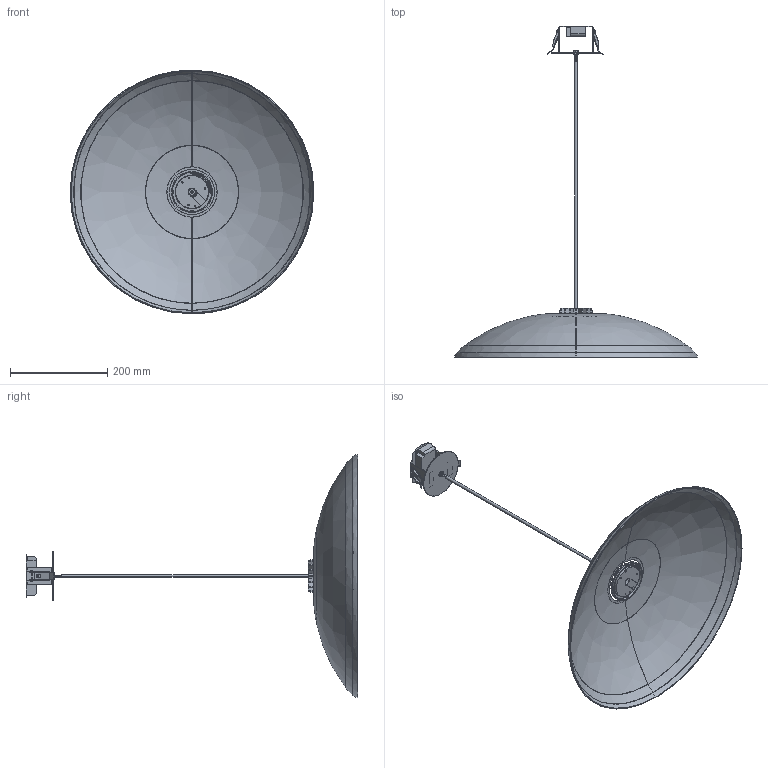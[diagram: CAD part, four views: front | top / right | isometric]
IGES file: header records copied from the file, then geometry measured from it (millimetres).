
Start section: SolidWorks IGES file using analytic representation for surfaces
Global section: file name: C:\Users\berta.gumma\OneDrive - santa &cole\Desktop\HeadHat plate M florón empotrado.IGS; native system: SolidWorks 2021; preprocessor: SolidWorks 2021; author: berta.gumma; date: 230904.100649; units: millimetre
Bounding box: 500 x 680.71 x 500 mm (x, y, z)
Surface area: 533007.9 mm2 (no closed solid volume)
Topology: 0 solids, 0 shells, 773 faces, 9882 edges, 9872 vertices
Faces by surface type: bspline 543, revolution 230
